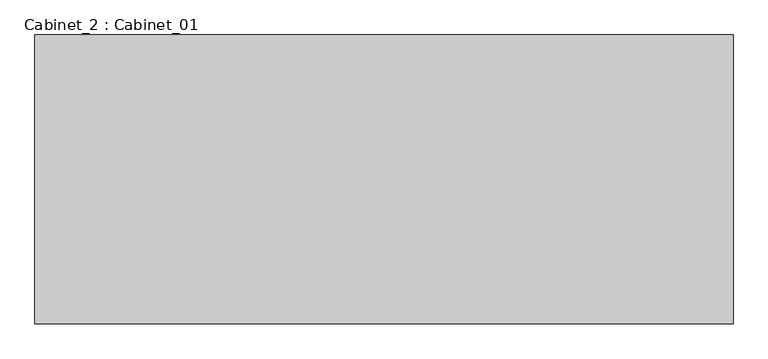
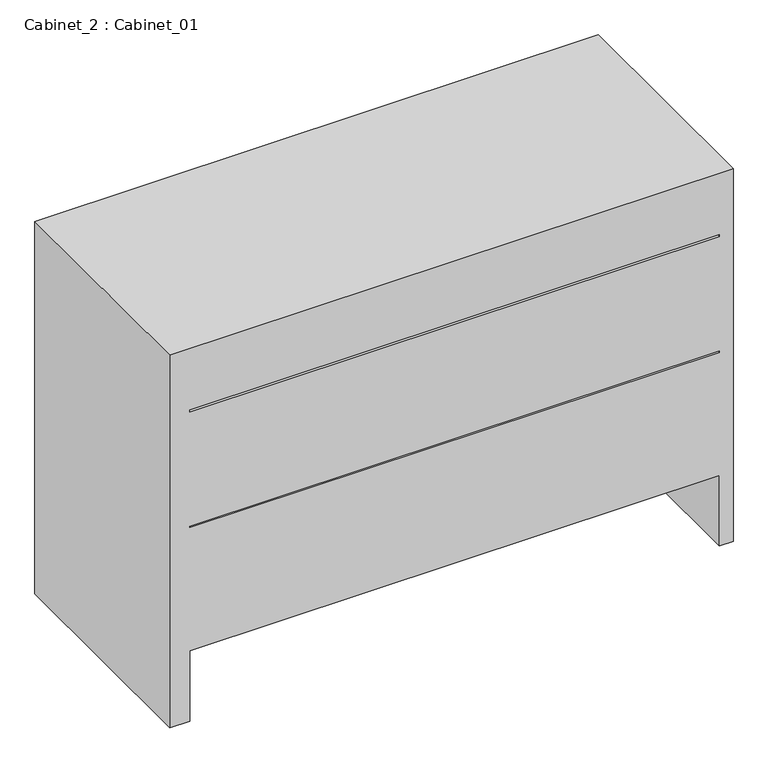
"""IFC4 building model written with IfcOpenShell, lengths in millimetres: furniture geometry, Cabinet_2 : Cabinet_01."""

import ifcopenshell
import ifcopenshell.guid

model = None  # the IFC model being written
_history = None  # IfcOwnerHistory: only IFC2X3 demands one
_inside = {}  # id of a spatial element -> (the spatial element, [elements in it])
_under = {}  # id of a project, library or spatial element -> (it, [spatial elements below it])
_declared = {}  # id of a project -> (the project, [libraries it declares])
_typed = {}  # id of a type object -> (the type object, [elements of that type])
_made_of = {}  # id of a material, layer set ... -> (it, [elements and type objects made of it])


def new_model(schema):
    """Start an empty IFC model of exactly this schema.

    Asked for "IFC4X3", IfcOpenShell would pick the latest addendum, in which some entities
    have other attributes; the version numbers below select the first issue.
    IFC2X3 requires an IfcOwnerHistory on every rooted entity: one is made here for all.
    """
    global model, _history
    if schema == "IFC4X3":
        model = ifcopenshell.file(schema_version=(4, 3, 0, 0))
    else:
        model = ifcopenshell.file(schema=schema)
    _inside.clear()
    _under.clear()
    _declared.clear()
    _typed.clear()
    _made_of.clear()
    _history = None
    if model.schema == "IFC2X3":
        org = make("IfcOrganization", Name="unknown")
        user = make(
            "IfcPersonAndOrganization",
            ThePerson=make("IfcPerson", FamilyName="unknown"),
            TheOrganization=org,
        )
        app = make(
            "IfcApplication",
            ApplicationDeveloper=org,
            Version="unknown",
            ApplicationFullName="unknown",
            ApplicationIdentifier="unknown",
        )
        _history = make(
            "IfcOwnerHistory",
            OwningUser=user,
            OwningApplication=app,
            ChangeAction="ADDED",
            CreationDate=0,
        )
    return model


def make(cls, **values):
    """One entity of the class cls with the attributes given. An attribute that is None is left unset."""
    return model.create_entity(
        cls, **{name: value for name, value in values.items() if value is not None}
    )


def rooted(cls, **values):
    """An entity with a GlobalId (a new one), such as an element, a storey or a relation."""
    return make(cls, GlobalId=ifcopenshell.guid.new(), OwnerHistory=_history, **values)


def si_unit(unit_type, name, prefix=None):
    """IfcSIUnit, for example si_unit("LENGTHUNIT", "METRE", prefix="MILLI")."""
    return make("IfcSIUnit", UnitType=unit_type, Prefix=prefix, Name=name)


def assignment(units):
    """IfcUnitAssignment: the units of a project."""
    return None if units is None else make("IfcUnitAssignment", Units=units)


def point(xyz):
    """IfcCartesianPoint."""
    return None if xyz is None else make("IfcCartesianPoint", Coordinates=xyz)


def direction(xyz):
    """IfcDirection."""
    return None if xyz is None else make("IfcDirection", DirectionRatios=xyz)


def frame(location, z_axis=None, x_axis=None):
    """IfcAxis2Placement3D, a coordinate frame: its origin and axes. An axis left out is left unset."""
    return make(
        "IfcAxis2Placement3D",
        Location=point(location),
        Axis=direction(z_axis),
        RefDirection=direction(x_axis),
    )


def origin():
    """The frame at (0, 0, 0) with its axes left unset."""
    return frame((0.0, 0.0, 0.0))


def place(relative_to, where):
    """IfcLocalPlacement: puts the frame where relative to a parent placement (None: the world)."""
    return make(
        "IfcLocalPlacement", PlacementRelTo=relative_to, RelativePlacement=where
    )


def context(
    kind, dimensions, precision=None, world=None, true_north=None, identifier=None
):
    """IfcGeometricRepresentationContext, for example the 3D "Model" context."""
    return make(
        "IfcGeometricRepresentationContext",
        ContextIdentifier=identifier,
        ContextType=kind,
        CoordinateSpaceDimension=dimensions,
        Precision=precision,
        WorldCoordinateSystem=world,
        TrueNorth=true_north,
    )


def project(units=None, contexts=None):
    """IfcProject with its units and contexts."""
    return rooted(
        "IfcProject",
        Name="project",
        RepresentationContexts=contexts,
        UnitsInContext=assignment(units),
    )


def spatial(cls, under=None, at=None, **own):
    """A site, building, storey or space (cls), placed at a placement, below another one or the project."""
    s = rooted(cls, ObjectPlacement=at, **own)
    if under is not None:
        _under.setdefault(under.id(), (under, []))[1].append(s)
    return s


def faces_of(points, faces, orient=None, outer=None):
    """IfcFace entities. A face is a list of loops; a loop is a list of indices into points, from 0.

    orient and outer hold one flag for each loop. By default every Orientation is true, the
    first loop of a face is its IfcFaceOuterBound and the others are IfcFaceBound.
    """
    made = []
    for i, loops in enumerate(faces):
        bounds = []
        for j, loop in enumerate(loops):
            is_outer = j == 0 if outer is None else outer[i][j]
            bounds.append(
                make(
                    "IfcFaceOuterBound" if is_outer else "IfcFaceBound",
                    Bound=make("IfcPolyLoop", Polygon=[points[k] for k in loop]),
                    Orientation=True if orient is None else orient[i][j],
                )
            )
        made.append(make("IfcFace", Bounds=bounds))
    return made


def faceted_brep(points, faces, orient=None, outer=None, voids=None):
    """IfcFacetedBrep: a solid bounded by flat faces; with voids (closed shells), ...WithVoids."""
    shared = [point(p) for p in points]
    hull = make("IfcClosedShell", CfsFaces=faces_of(shared, faces, orient, outer))
    if voids is None:
        return make("IfcFacetedBrep", Outer=hull)
    return make(
        "IfcFacetedBrepWithVoids",
        Outer=hull,
        Voids=[
            make(cls, CfsFaces=faces_of(shared, fs, o, b)) for cls, fs, o, b in voids
        ],
    )


def shape(context_of_items, identifier, shape_type, items):
    """IfcShapeRepresentation: the items that make up one representation, for example the "Body"."""
    return make(
        "IfcShapeRepresentation",
        ContextOfItems=context_of_items,
        RepresentationIdentifier=identifier,
        RepresentationType=shape_type,
        Items=items,
    )


def source(mapping_origin, context_of_items, identifier, shape_type, items):
    """IfcRepresentationMap: a shape defined once, which mapped items show again and again."""
    return make(
        "IfcRepresentationMap",
        MappingOrigin=mapping_origin,
        MappedRepresentation=shape(context_of_items, identifier, shape_type, items),
    )


def transform(
    local_origin,
    x_axis=None,
    y_axis=None,
    z_axis=None,
    scale=None,
    scale2=None,
    scale3=None,
    uniform=True,
):
    """IfcCartesianTransformationOperator3D, or its non-uniform kind. x_axis, y_axis, z_axis: its Axis1, 2, 3."""
    if uniform:
        return make(
            "IfcCartesianTransformationOperator3D",
            Axis1=direction(x_axis),
            Axis2=direction(y_axis),
            LocalOrigin=point(local_origin),
            Scale=scale,
            Axis3=direction(z_axis),
        )
    return make(
        "IfcCartesianTransformationOperator3DnonUniform",
        Axis1=direction(x_axis),
        Axis2=direction(y_axis),
        LocalOrigin=point(local_origin),
        Scale=scale,
        Axis3=direction(z_axis),
        Scale2=scale2,
        Scale3=scale3,
    )


def mapped(mapping_source, mapping_target):
    """IfcMappedItem: shows the shape of a source again, moved by a transform."""
    return make(
        "IfcMappedItem", MappingSource=mapping_source, MappingTarget=mapping_target
    )


def made_of(thing, what):
    """Note that an element or type object is made of a material, layer set ...; save() writes the relation."""
    if what is not None:
        _made_of.setdefault(what.id(), (what, []))[1].append(thing)
    return thing


def element(
    cls,
    number,
    at=None,
    inside=None,
    cuts=None,
    type_object=None,
    material=None,
    context=None,
    identifier="Body",
    shape_type=None,
    held_by="IfcProductDefinitionShape",
    body=None,
    shapes=None,
    **own,
):
    """One element of the class cls, such as IfcWall. Its Tag is "e" and its number.

    at: its placement. inside: the storey or other place that contains it. cuts: it is an
    opening in that element (IfcRelVoidsElement). A single representation is given by context,
    identifier, shape_type and body (its items); several are given by shapes. held_by: the class
    of the entity that holds the representations. save() writes the other relations.
    """
    e = rooted(cls, Tag="e%d" % number, ObjectPlacement=at, **own)
    if body is not None:
        shapes = [shape(context, identifier, shape_type, body)]
    if shapes is not None:
        e.Representation = make(held_by, Representations=shapes)
    if inside is not None:
        _inside.setdefault(inside.id(), (inside, []))[1].append(e)
    if cuts is not None:
        rooted(
            "IfcRelVoidsElement", RelatingBuildingElement=cuts, RelatedOpeningElement=e
        )
    if type_object is not None:
        _typed.setdefault(type_object.id(), (type_object, []))[1].append(e)
    return made_of(e, material)


def aggregate(whole, parts):
    """IfcRelAggregates: a whole, such as a stair, and the parts it consists of."""
    return rooted("IfcRelAggregates", RelatingObject=whole, RelatedObjects=parts)


def save(model, path):
    """Write the relations noted so far, then the file.

    IfcRelAggregates (storeys below a building ...), IfcRelContainedInSpatialStructure (elements
    in a storey), IfcRelDefinesByType, IfcRelAssociatesMaterial and IfcRelDeclares: one each for
    every whole, place, type object, material and project.
    """
    for whole, parts in _under.values():
        aggregate(whole, parts)
    for where, things in _inside.values():
        rooted(
            "IfcRelContainedInSpatialStructure",
            RelatedElements=things,
            RelatingStructure=where,
        )
    for kind, things in _typed.values():
        rooted("IfcRelDefinesByType", RelatedObjects=things, RelatingType=kind)
    for what, things in _made_of.values():
        rooted("IfcRelAssociatesMaterial", RelatedObjects=things, RelatingMaterial=what)
    for by, libraries in _declared.values():
        rooted("IfcRelDeclares", RelatingContext=by, RelatedDefinitions=libraries)
    model.write(path)


def cabinet_2_cabinet_01_d2b5b7ef(model_context):
    return source(origin(), model_context, "Body", "Brep", [
        faceted_brep([(581.5399831, 4827.3752946, 7321.625394), (-578.4600169, 4827.3752946, 7321.625394), (-578.4600169, 4347.3752946, 7321.625394), (581.5399831, 4347.3752946, 7321.625394), (581.5399831, 4827.3752946, 6510.0), (581.5399831, 4347.3752946, 6510.0), (552.8780749, 4347.3752946, 6510.0), (552.8780749, 4813.9061457, 6510.0), (-537.1219251, 4813.9061457, 6510.0), (-537.1219251, 4347.3752946, 6510.0), (-578.4600169, 4347.3752946, 6510.0), (-578.4600169, 4827.3752946, 6510.0), (-537.1219251, 4347.3752946, 6663.1537998), (552.8780749, 4347.3752946, 6663.1537998), (-537.1219251, 4347.3752946, 6934.5484476), (552.8780749, 4347.3752946, 6934.5484476), (552.8780749, 4347.3752946, 6931.4367659), (-537.1219251, 4347.3752946, 6931.4367659), (-537.1219251, 4347.3752946, 7187.5994554), (552.8780749, 4347.3752946, 7187.5994554), (552.8780749, 4347.3752946, 7183.6527485), (-537.1219251, 4347.3752946, 7183.6527485), (-537.1219251, 4813.9061457, 6663.1537998), (552.8780749, 4813.9061457, 6663.1537998), (-537.1219251, 4354.2749186, 6934.5484476), (552.8780749, 4354.2749186, 6934.5484476), (552.8780749, 4354.2749186, 6931.4367659), (-537.1219251, 4354.2749186, 6931.4367659), (-537.1219251, 4354.2749186, 7187.5994554), (552.8780749, 4354.2749186, 7187.5994554), (552.8780749, 4354.2749186, 7183.6527485), (-537.1219251, 4354.2749186, 7183.6527485)], [[[0, 1, 2, 3]], [[4, 5, 6, 7, 8, 9, 10, 11]], [[1, 0, 4, 11]], [[2, 1, 11, 10]], [[3, 2, 10, 9, 12, 13, 6, 5], [14, 15, 16, 17], [18, 19, 20, 21]], [[0, 3, 5, 4]], [[22, 23, 13, 12]], [[23, 22, 8, 7]], [[8, 22, 12, 9]], [[23, 7, 6, 13]], [[24, 25, 15, 14]], [[26, 27, 17, 16]], [[25, 24, 27, 26]], [[27, 24, 14, 17]], [[25, 26, 16, 15]], [[28, 29, 19, 18]], [[30, 31, 21, 20]], [[29, 28, 31, 30]], [[31, 28, 18, 21]], [[29, 30, 20, 19]]]),
    ])


if __name__ == "__main__":
    model = new_model("IFC4")
    model_context = context("Model", 3, world=origin())
    ifc_project = project(units=[si_unit("LENGTHUNIT", "METRE", prefix="MILLI")], contexts=[model_context])
    site = spatial("IfcSite", under=ifc_project)
    building = spatial("IfcBuilding", under=site)
    placement = place(None, origin())
    cabinet_2_cabinet_01_shape = cabinet_2_cabinet_01_d2b5b7ef(model_context)
    element("IfcFurniture", 1, ObjectType="Cabinet_2 : Cabinet_01", at=placement, inside=building, context=model_context, shape_type="MappedRepresentation", body=[
        mapped(cabinet_2_cabinet_01_shape, transform((0.0, 0.0, 0.0), x_axis=(1.0, 0.0, 0.0), y_axis=(0.0, 1.0, 0.0), z_axis=(0.0, 0.0, 1.0))),
    ])
    save(model, "model.ifc")
